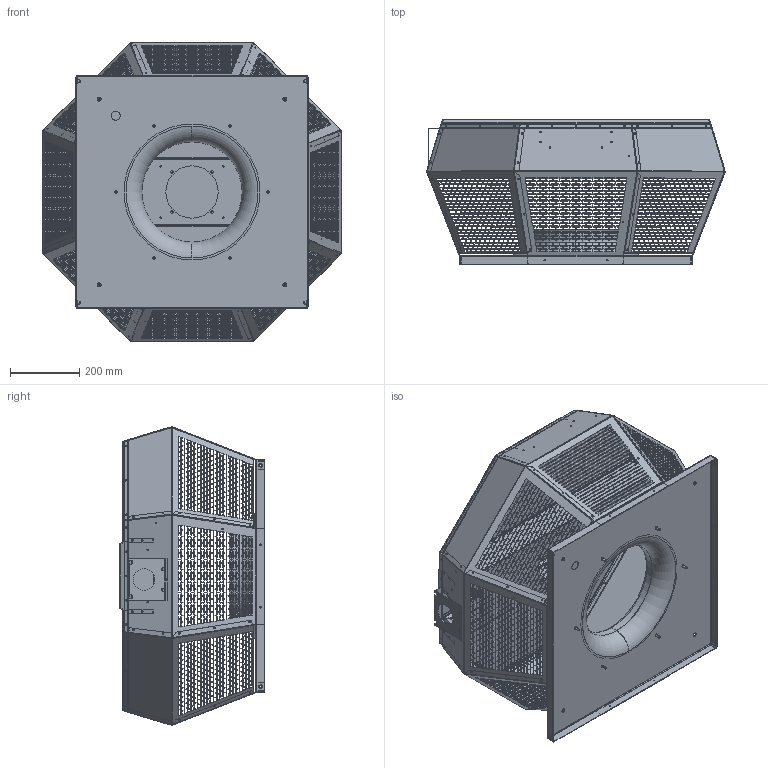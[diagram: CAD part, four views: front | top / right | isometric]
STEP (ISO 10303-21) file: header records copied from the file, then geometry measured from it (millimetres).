
FILE_DESCRIPTION (( 'STEP AP203' ), '1' );
FILE_NAME ('131273-00_DHA450ECP30.STEP', '2015-02-26T08:47:42', ( '' ), ( '' ), 'SwSTEP 2.0', 'SolidWorks 2012', '' );
FILE_SCHEMA (( 'CONFIG_CONTROL_DESIGN' ));
Products named in the file (1): 131273-00_DHA450ECP30
Bounding box: 860.47 x 417.54 x 860.47 mm (x, y, z)
Surface area: 4242810.7 mm2 (no closed solid volume)
Topology: 0 solids, 56 shells, 6770 faces, 32097 edges, 23001 vertices
Faces by surface type: plane 6179, cylinder 513, torus 34, bspline 24, cone 20
Entity records: 323418 total; most frequent: CARTESIAN_POINT 63311, ORIENTED_EDGE 49002, DIRECTION 46830, EDGE_CURVE 32097, VECTOR 30390, LINE 30390, VERTEX_POINT 23001, EDGE_LOOP 12399
